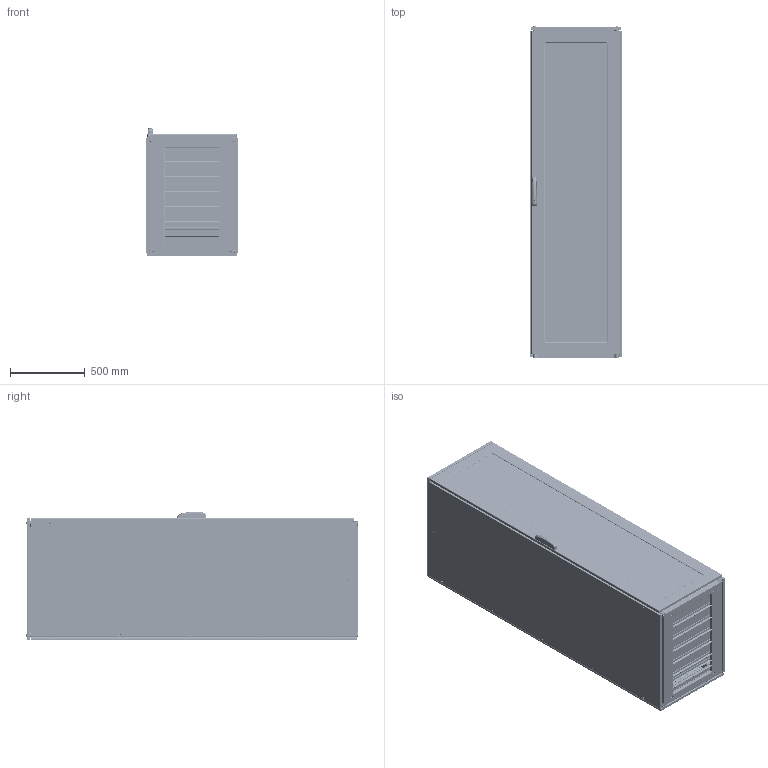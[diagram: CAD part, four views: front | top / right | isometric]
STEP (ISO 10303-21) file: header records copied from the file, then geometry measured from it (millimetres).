
FILE_DESCRIPTION (( 'STEP AP203' ), '1' );
FILE_NAME ('ENUX062208PV.STEP', '2025-05-29T08:28:03', ( '' ), ( '' ), 'SwSTEP 2.0', 'SolidWorks 2022', '' );
FILE_SCHEMA (( 'CONFIG_CONTROL_DESIGN' ));
Length unit declared in the file: millimetre
Products named in the file (13): AR_ENUX_Tegolino_0600x0050; AR_ENUX_Fianco_0800x2200_SX; AR_ENUX_Fianco_0800x2200_DX; AR_ENUX_Porta_singola_plexi_0600x2200_ANT; ENUX062208PV; AR_ENUX_Plexiglass_porte_0600X2200; AR_ENUX_Vite_tetto; AR_ENUX_Tetto_0600x0800; AR_ENUX_Retro_singolo_0600x2200; AR_ENUX_nuova_maniglia_mesan; AR_ENUX_montaggio_porta_singlola_plexi_0600x2200_ANT_DX; AR_ENUX_Tegolino_0600x0100; AR_ENUX_Struttura_0600x2200x0800
Assembly tree (20 placements, depth 3):
  ENUX062208PV
    AR_ENUX_Struttura_0600x2200x0800
    AR_ENUX_Retro_singolo_0600x2200
    AR_ENUX_Fianco_0800x2200_SX
    AR_ENUX_Fianco_0800x2200_DX
    AR_ENUX_Tetto_0600x0800
    AR_ENUX_Vite_tetto  x4
    AR_ENUX_montaggio_porta_singlola_plexi_0600x2200_ANT_DX
      AR_ENUX_Porta_singola_plexi_0600x2200_ANT
      AR_ENUX_Plexiglass_porte_0600X2200
      AR_ENUX_nuova_maniglia_mesan
    AR_ENUX_Tegolino_0600x0100  x5
    AR_ENUX_Tegolino_0600x0050  x2
Bounding box: 612 x 2215.1 x 857 mm (x, y, z)
Volume: 16195934.8 mm3; surface area: 21813774.6 mm2
Topology: 19 solids, 19 shells, 9823 faces, 27809 edges, 17912 vertices
Faces by surface type: plane 5402, cylinder 3457, bspline 365, torus 291, cone 240, sphere 68
Entity records: 353486 total; most frequent: CARTESIAN_POINT 94984, ORIENTED_EDGE 53596, DIRECTION 51221, EDGE_CURVE 26798, VECTOR 18485, LINE 18485, VERTEX_POINT 17434, AXIS2_PLACEMENT_3D 16368
